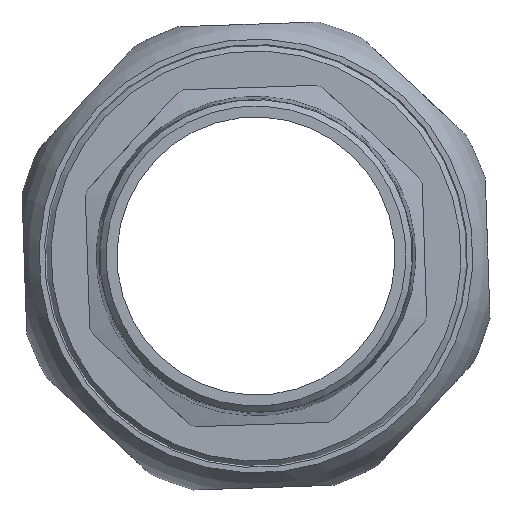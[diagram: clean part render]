
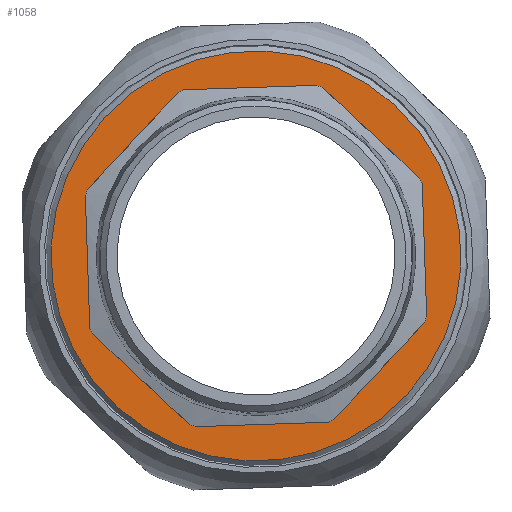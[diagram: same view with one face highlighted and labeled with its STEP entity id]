
A CAD part, left-side view. The second image highlights one B-rep face of the part: STEP entity #1058.
In plain terms, the highlighted planar face has unit normal (-1, 0, 0) as drawn and (1, 0, 0) by its records, which use the part's own axes.
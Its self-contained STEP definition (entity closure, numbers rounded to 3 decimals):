
#58=FACE_BOUND('',#311,.T.);
#84=PLANE('',#1255);
#125=LINE('',#1788,#169);
#128=LINE('',#1799,#172);
#131=LINE('',#1810,#175);
#134=LINE('',#1821,#178);
#137=LINE('',#1836,#181);
#140=LINE('',#1847,#184);
#143=LINE('',#1858,#187);
#147=LINE('',#1892,#191);
#169=VECTOR('',#1445,10.);
#172=VECTOR('',#1450,10.);
#175=VECTOR('',#1455,10.);
#178=VECTOR('',#1460,10.);
#181=VECTOR('',#1465,10.);
#184=VECTOR('',#1470,10.);
#187=VECTOR('',#1475,10.);
#191=VECTOR('',#1523,10.);
#246=FACE_OUTER_BOUND('',#310,.T.);
#310=EDGE_LOOP('',(#888,#889));
#311=EDGE_LOOP('',(#890,#891,#892,#893,#894,#895,#896,#897,#898,#899,#900,
#901,#902,#903,#904,#905));
#389=CIRCLE('',#1229,43.);
#391=CIRCLE('',#1232,43.);
#393=CIRCLE('',#1235,43.);
#395=CIRCLE('',#1238,43.);
#397=CIRCLE('',#1241,43.);
#399=CIRCLE('',#1244,43.);
#401=CIRCLE('',#1247,43.);
#405=CIRCLE('',#1254,43.);
#406=CIRCLE('',#1256,48.665);
#407=CIRCLE('',#1257,48.665);
#478=VERTEX_POINT('',#1784);
#480=VERTEX_POINT('',#1787);
#482=VERTEX_POINT('',#1795);
#484=VERTEX_POINT('',#1798);
#486=VERTEX_POINT('',#1806);
#488=VERTEX_POINT('',#1809);
#490=VERTEX_POINT('',#1817);
#492=VERTEX_POINT('',#1820);
#495=VERTEX_POINT('',#1832);
#497=VERTEX_POINT('',#1835);
#499=VERTEX_POINT('',#1843);
#501=VERTEX_POINT('',#1846);
#503=VERTEX_POINT('',#1854);
#505=VERTEX_POINT('',#1857);
#508=VERTEX_POINT('',#1867);
#509=VERTEX_POINT('',#1889);
#513=VERTEX_POINT('',#1906);
#514=VERTEX_POINT('',#1907);
#603=EDGE_CURVE('',#480,#478,#125,.T.);
#607=EDGE_CURVE('',#484,#482,#128,.T.);
#611=EDGE_CURVE('',#488,#486,#131,.T.);
#615=EDGE_CURVE('',#492,#490,#134,.T.);
#620=EDGE_CURVE('',#497,#495,#137,.T.);
#624=EDGE_CURVE('',#501,#499,#140,.T.);
#628=EDGE_CURVE('',#505,#503,#143,.T.);
#633=EDGE_CURVE('',#508,#503,#389,.T.);
#635=EDGE_CURVE('',#505,#499,#391,.T.);
#637=EDGE_CURVE('',#501,#495,#393,.T.);
#639=EDGE_CURVE('',#497,#490,#395,.T.);
#641=EDGE_CURVE('',#492,#486,#397,.T.);
#643=EDGE_CURVE('',#488,#482,#399,.T.);
#645=EDGE_CURVE('',#484,#478,#401,.T.);
#647=EDGE_CURVE('',#508,#509,#147,.T.);
#653=EDGE_CURVE('',#480,#509,#405,.T.);
#654=EDGE_CURVE('',#513,#514,#406,.T.);
#655=EDGE_CURVE('',#514,#513,#407,.T.);
#888=ORIENTED_EDGE('',*,*,#654,.T.);
#889=ORIENTED_EDGE('',*,*,#655,.T.);
#890=ORIENTED_EDGE('',*,*,#633,.F.);
#891=ORIENTED_EDGE('',*,*,#647,.T.);
#892=ORIENTED_EDGE('',*,*,#653,.F.);
#893=ORIENTED_EDGE('',*,*,#603,.T.);
#894=ORIENTED_EDGE('',*,*,#645,.F.);
#895=ORIENTED_EDGE('',*,*,#607,.T.);
#896=ORIENTED_EDGE('',*,*,#643,.F.);
#897=ORIENTED_EDGE('',*,*,#611,.T.);
#898=ORIENTED_EDGE('',*,*,#641,.F.);
#899=ORIENTED_EDGE('',*,*,#615,.T.);
#900=ORIENTED_EDGE('',*,*,#639,.F.);
#901=ORIENTED_EDGE('',*,*,#620,.T.);
#902=ORIENTED_EDGE('',*,*,#637,.F.);
#903=ORIENTED_EDGE('',*,*,#624,.T.);
#904=ORIENTED_EDGE('',*,*,#635,.F.);
#905=ORIENTED_EDGE('',*,*,#628,.T.);
#1058=ADVANCED_FACE('',(#246,#58),#84,.T.);
#1229=AXIS2_PLACEMENT_3D('',#1869,#1482,#1483);
#1232=AXIS2_PLACEMENT_3D('',#1872,#1488,#1489);
#1235=AXIS2_PLACEMENT_3D('',#1875,#1494,#1495);
#1238=AXIS2_PLACEMENT_3D('',#1878,#1500,#1501);
#1241=AXIS2_PLACEMENT_3D('',#1881,#1506,#1507);
#1244=AXIS2_PLACEMENT_3D('',#1884,#1512,#1513);
#1247=AXIS2_PLACEMENT_3D('',#1887,#1518,#1519);
#1254=AXIS2_PLACEMENT_3D('',#1904,#1535,#1536);
#1255=AXIS2_PLACEMENT_3D('',#1905,#1537,#1538);
#1256=AXIS2_PLACEMENT_3D('',#1908,#1539,#1540);
#1257=AXIS2_PLACEMENT_3D('',#1909,#1541,#1542);
#1445=DIRECTION('',(0.,-0.707,-0.707));
#1450=DIRECTION('',(0.,-1.,0.));
#1455=DIRECTION('',(0.,-0.707,0.707));
#1460=DIRECTION('',(0.,0.,1.));
#1465=DIRECTION('',(0.,0.707,0.707));
#1470=DIRECTION('',(0.,1.,0.));
#1475=DIRECTION('',(0.,0.707,-0.707));
#1482=DIRECTION('center_axis',(1.,0.,0.));
#1483=DIRECTION('ref_axis',(0.,1.,0.));
#1488=DIRECTION('center_axis',(1.,0.,0.));
#1489=DIRECTION('ref_axis',(0.,1.,0.));
#1494=DIRECTION('center_axis',(1.,0.,0.));
#1495=DIRECTION('ref_axis',(0.,1.,0.));
#1500=DIRECTION('center_axis',(1.,0.,0.));
#1501=DIRECTION('ref_axis',(0.,1.,0.));
#1506=DIRECTION('center_axis',(1.,0.,0.));
#1507=DIRECTION('ref_axis',(0.,1.,0.));
#1512=DIRECTION('center_axis',(1.,0.,0.));
#1513=DIRECTION('ref_axis',(0.,1.,0.));
#1518=DIRECTION('center_axis',(1.,0.,0.));
#1519=DIRECTION('ref_axis',(0.,1.,0.));
#1523=DIRECTION('',(0.,0.,-1.));
#1535=DIRECTION('center_axis',(1.,0.,0.));
#1536=DIRECTION('ref_axis',(0.,1.,0.));
#1537=DIRECTION('center_axis',(1.,0.,0.));
#1538=DIRECTION('ref_axis',(0.,0.,-1.));
#1539=DIRECTION('center_axis',(1.,0.,0.));
#1540=DIRECTION('ref_axis',(0.,1.,0.));
#1541=DIRECTION('center_axis',(1.,0.,0.));
#1542=DIRECTION('ref_axis',(0.,1.,0.));
#1784=CARTESIAN_POINT('',(-9.417,17.126,-39.442));
#1787=CARTESIAN_POINT('',(-9.417,39.442,-17.126));
#1788=CARTESIAN_POINT('',(-9.417,28.284,-28.284));
#1795=CARTESIAN_POINT('',(-9.417,-15.78,-40.));
#1798=CARTESIAN_POINT('',(-9.417,15.78,-40.));
#1799=CARTESIAN_POINT('',(-9.417,0.,-40.));
#1806=CARTESIAN_POINT('',(-9.417,-39.442,-17.126));
#1809=CARTESIAN_POINT('',(-9.417,-17.126,-39.442));
#1810=CARTESIAN_POINT('',(-9.417,-28.284,-28.284));
#1817=CARTESIAN_POINT('',(-9.417,-40.,15.78));
#1820=CARTESIAN_POINT('',(-9.417,-40.,-15.78));
#1821=CARTESIAN_POINT('',(-9.417,-40.,0.));
#1832=CARTESIAN_POINT('',(-9.417,-17.126,39.442));
#1835=CARTESIAN_POINT('',(-9.417,-39.442,17.126));
#1836=CARTESIAN_POINT('',(-9.417,-28.284,28.284));
#1843=CARTESIAN_POINT('',(-9.417,15.78,40.));
#1846=CARTESIAN_POINT('',(-9.417,-15.78,40.));
#1847=CARTESIAN_POINT('',(-9.417,0.,40.));
#1854=CARTESIAN_POINT('',(-9.417,39.442,17.126));
#1857=CARTESIAN_POINT('',(-9.417,17.126,39.442));
#1858=CARTESIAN_POINT('',(-9.417,28.284,28.284));
#1867=CARTESIAN_POINT('',(-9.417,40.,15.78));
#1869=CARTESIAN_POINT('Origin',(-9.417,0.,
0.));
#1872=CARTESIAN_POINT('Origin',(-9.417,0.,
0.));
#1875=CARTESIAN_POINT('Origin',(-9.417,0.,
0.));
#1878=CARTESIAN_POINT('Origin',(-9.417,0.,
0.));
#1881=CARTESIAN_POINT('Origin',(-9.417,0.,
0.));
#1884=CARTESIAN_POINT('Origin',(-9.417,0.,
0.));
#1887=CARTESIAN_POINT('Origin',(-9.417,0.,
0.));
#1889=CARTESIAN_POINT('',(-9.417,40.,-15.78));
#1892=CARTESIAN_POINT('',(-9.417,40.,0.));
#1904=CARTESIAN_POINT('Origin',(-9.417,0.,
0.));
#1905=CARTESIAN_POINT('Origin',(-9.417,45.833,0.));
#1906=CARTESIAN_POINT('',(-9.417,48.665,0.));
#1907=CARTESIAN_POINT('',(-9.417,-48.665,0.));
#1908=CARTESIAN_POINT('Origin',(-9.417,0.,
0.));
#1909=CARTESIAN_POINT('Origin',(-9.417,0.,
0.));
